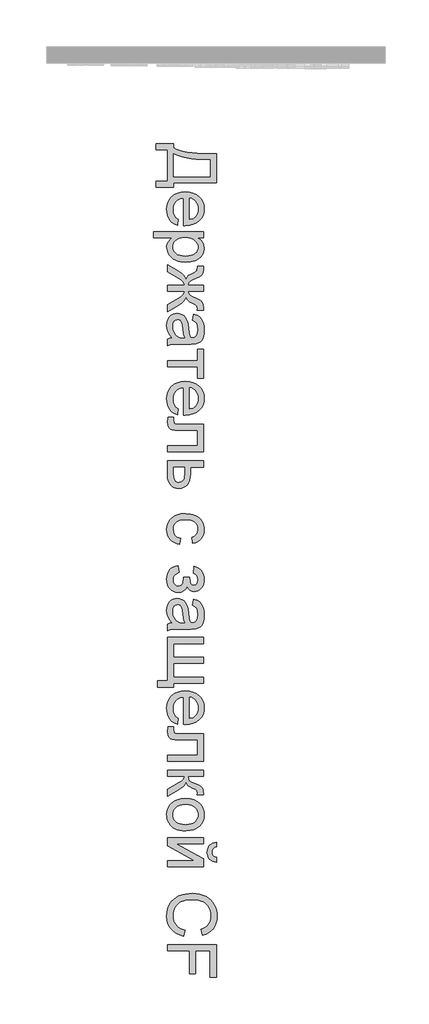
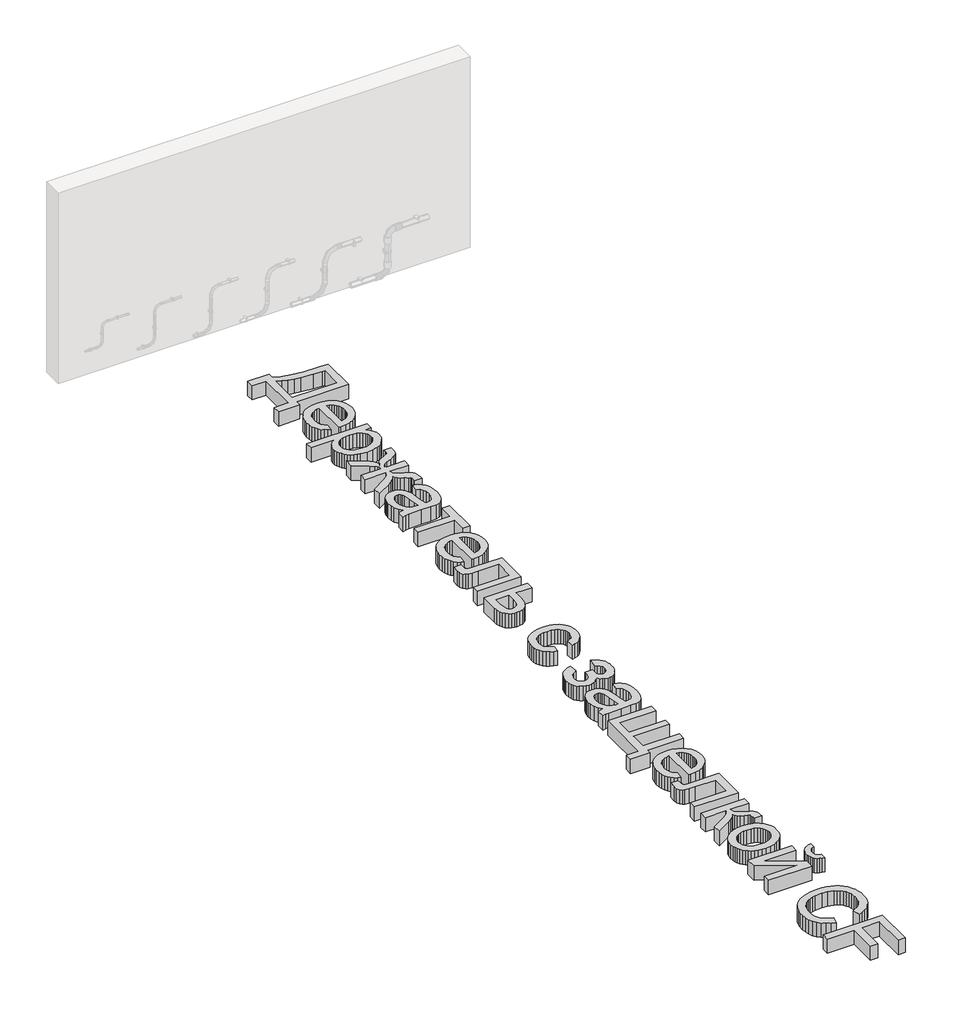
# One storey, part 22 of 33: 1 proxy.
"""IFC4 building model written with IfcOpenShell, lengths in millimetres."""

from ifc_helpers import new_model, si_unit, origin, origin_with_axes, place, context, project, spatial, polyline, outline, extrude, element, save

model = new_model("IFC4")

# Units and contexts
model_context = context("Model", 3, world=origin())
ifc_project = project(units=[si_unit("LENGTHUNIT", "METRE", prefix="MILLI")], contexts=[model_context])

# Site, building, storey
site = spatial("IfcSite", under=ifc_project)
building = spatial("IfcBuilding", under=site)
storey = spatial("IfcBuildingStorey", under=building, Name="Уровень 1", Elevation=0.0)

# Proxy
placement = place(None, origin())
element("IfcBuildingElementProxy", 1, Name="Надпись на модели 1", ObjectType="Надпись на модели 1", at=placement, inside=storey, context=model_context, shape_type="SweptSolid", body=[
    extrude(outline(polyline([(51483.0335832, 3308.7784672), (51483.0335832, 2958.0092365), (50966.1105063, 2958.0092365), (50966.1105063, 2902.6246211), (50753.802814, 2902.6246211), (50753.802814, 2976.4707749), (50892.2643525, 2976.4707749), (50892.2643525, 3354.9323134), (50753.802814, 3354.9323134), (50753.802814, 3428.7784672), (50966.1105063, 3428.7784672), (50966.1105063, 3382.6246211), (50996.1983969, 3365.3169288), (51033.0966842, 3350.3169288), (51076.8053681, 3337.6246211), (51127.3244486, 3327.2400057), (51248.7937996, 3313.3938519), (51397.5047371, 3308.7784672), (51483.0335832, 3308.7784672)]), holes=[polyline([(51409.1874294, 3031.8553903), (51409.1874294, 3234.9323134), (51379.4758909, 3234.9323134), (51291.8917563, 3238.6823134), (51177.1201217, 3249.9323134), (51115.7950015, 3259.235198), (51060.1850255, 3272.1438519), (51010.2901938, 3288.6582749), (50966.1105063, 3308.7784672), (50966.1105063, 3031.8553903), (51409.1874294, 3031.8553903)])]), origin_with_axes(), (0.0, 0.0, 1.0), 150.0),
    extrude(outline(polyline([(51021.4951217, 2515.797698), (51012.2643525, 2443.3938519), (50983.2649534, 2454.4951139), (50957.709064, 2469.4815922), (50935.5966842, 2488.353287), (50916.927814, 2511.110198), (50902.099088, 2537.5179504), (50891.5071409, 2567.3421692), (50885.1519726, 2600.5828543), (50883.0335832, 2637.2400057), (50886.6889318, 2683.0603182), (50897.6549775, 2723.8866403), (50915.9317202, 2759.7189721), (50941.5191601, 2790.5573134), (50973.7051577, 2815.3559913), (51011.7775736, 2833.0693326), (51055.7364077, 2843.6973374), (51105.5816601, 2847.2400057), (51157.1171169, 2843.6612797), (51202.5407948, 2832.9251019), (51241.8526938, 2815.0314721), (51275.052814, 2789.9803903), (51301.4290159, 2759.2231788), (51320.2691601, 2724.2111596), (51331.5732467, 2684.9443326), (51335.3412755, 2641.422698), (51331.5822611, 2599.3028062), (51320.3052178, 2561.2123615), (51301.5101457, 2527.1513639), (51275.1970448, 2497.1198134), (51242.06904, 2472.6050898), (51202.8292563, 2455.094573), (51157.4776938, 2444.5882629), (51106.0143525, 2441.0861596), (51086.1105063, 2441.5188519), (51086.1105063, 2773.3938519), (51056.6423573, 2769.1165081), (51030.834064, 2760.6113999), (51008.6856265, 2747.8785273), (50990.1970448, 2730.9178903), (50975.6207226, 2710.6669889), (50965.209064, 2688.063323), (50958.9620688, 2663.1068927), (50956.8797371, 2635.797698), (50960.7379101, 2596.4948134), (50972.3124294, 2563.3938519), (50992.3244486, 2536.4948134), (51021.4951217, 2515.797698)]), holes=[polyline([(51159.9566601, 2773.3938519), (51159.9566601, 2514.9323134), (51198.9710832, 2524.9202942), (51214.3136313, 2533.5110394), (51226.8797371, 2544.4996211), (51242.0239678, 2564.6378422), (51252.8412755, 2587.5525057), (51259.3316601, 2613.2436115), (51261.4951217, 2641.7111596), (51259.7688597, 2667.6772052), (51254.5900736, 2691.4888038), (51245.9587635, 2713.1459552), (51233.8749294, 2732.6486596), (51218.8974654, 2749.0143447), (51201.5852659, 2761.2604384), (51181.9383308, 2769.3869408), (51159.9566601, 2773.3938519)])]), origin_with_axes(), (0.0, 0.0, 1.0), 150.0),
    extrude(outline(polyline([(50726.1105063, 2367.2400057), (51326.1105063, 2367.2400057), (51326.1105063, 2293.3938519), (51253.7066601, 2293.3938519), (51289.4218044, 2269.3073134), (51314.9326217, 2242.3361596), (51330.2391121, 2210.8938519), (51335.3412755, 2173.3938519), (51333.5564198, 2147.6396451), (51328.2018525, 2123.453948), (51319.2775736, 2100.8367605), (51306.7835832, 2079.7880826), (51291.0444005, 2060.7676499), (51272.3845448, 2044.235198), (51250.8040159, 2030.1907269), (51226.302814, 2018.6342365), (51171.8917563, 2003.1654865), (51112.5047371, 1998.0092365), (51049.349689, 2003.8325538), (51020.2736674, 2011.1117004), (50992.865314, 2021.3025057), (50967.8412755, 2034.2652461), (50945.9181986, 2049.860198), (50927.0960832, 2068.0873615), (50911.3749294, 2088.9467365), (50898.9755904, 2111.415186), (50890.1189198, 2134.469573), (50884.8049174, 2158.1098975), (50883.0335832, 2182.3361596), (50887.7751698, 2216.2844769), (50901.9999294, 2246.5909672), (50923.4722851, 2272.5344769), (50949.9566601, 2293.3938519), (50726.1105063, 2293.3938519), (50726.1105063, 2367.2400057)]), holes=[polyline([(51105.7258909, 2293.3938519), (51070.1369486, 2291.3971572), (51039.5239678, 2285.407073), (51013.8869486, 2275.4235995), (50993.2258909, 2261.4467365), (50977.3244486, 2244.6213158), (50965.9662755, 2226.0921692), (50959.1513717, 2205.8592966), (50956.8797371, 2183.922698), (50959.2325015, 2161.6705947), (50966.2907948, 2141.0681307), (50978.0546169, 2122.1153062), (50994.5239678, 2104.8121211), (51015.9332226, 2090.3935514), (51042.5167563, 2080.094573), (51074.2745688, 2073.915186), (51111.2066601, 2071.8553903), (51146.4891121, 2073.8656067), (51177.0480063, 2079.8962557), (51202.8833428, 2089.9473374), (51223.9951217, 2104.0188519), (51240.4013717, 2120.8848374), (51252.1201217, 2139.3193326), (51259.1513717, 2159.3223374), (51261.4951217, 2180.8938519), (51259.0026337, 2202.3977581), (51251.5251698, 2222.6306307), (51239.0627299, 2241.5924697), (51221.615314, 2259.2832749), (51199.4172972, 2274.2066523), (51172.7030544, 2284.8662076), (51141.4725856, 2291.2619408), (51105.7258909, 2293.3938519)])]), origin_with_axes(), (0.0, 0.0, 1.0), 150.0),
    extrude(outline(polyline([(51326.1105063, 1647.2400057), (51141.4951217, 1647.2400057), (51145.2992082, 1621.188323), (51156.7114678, 1604.1871211), (51184.0612275, 1587.7628422), (51235.677814, 1563.4419288), (51284.896564, 1538.0212557), (51300.9873092, 1526.1492605), (51311.3989678, 1514.8361596), (51322.4326217, 1486.6751019), (51326.1105063, 1445.7496211), (51326.1105063, 1416.4707749), (51251.8316601, 1416.4707749), (51252.2643525, 1436.8073134), (51250.3532948, 1461.1823134), (51244.6201217, 1474.8842365), (51228.6105063, 1485.8097172), (51196.7355063, 1501.2784672), (51164.6441601, 1517.2339961), (51144.2355063, 1531.9275057), (51130.2811794, 1549.9022653), (51117.552814, 1575.7015442), (51107.1591842, 1551.407674), (51088.8148332, 1527.4202942), (51062.5197611, 1503.7394047), (51028.2739678, 1480.3650057), (50892.2643525, 1398.0092365), (50892.2643525, 1482.672698), (51026.3989678, 1563.7303903), (51061.6093044, 1585.8878422), (51082.1441601, 1605.0525057), (51092.0419967, 1624.4335153), (51095.3412755, 1647.2400057), (50892.2643525, 1647.2400057), (50892.2643525, 1721.0861596), (51095.3412755, 1721.0861596), (51092.1141121, 1743.7123615), (51082.4326217, 1763.1294288), (51062.0419967, 1782.438323), (51026.6874294, 1804.7400057), (50892.2643525, 1885.797698), (50892.2643525, 1970.3169288), (51028.2739678, 1888.2496211), (51062.5197611, 1864.6769047), (51088.8148332, 1840.8337557), (51107.1591842, 1816.720174), (51117.552814, 1792.3361596), (51131.6874294, 1820.5332749), (51146.9758909, 1838.7784672), (51173.8388717, 1855.3650057), (51222.6970448, 1878.5861596), (51238.959064, 1887.9972172), (51247.6489678, 1898.0573134), (51251.4350255, 1911.3626019), (51252.6970448, 1929.9323134), (51252.2643525, 1951.8553903), (51326.1105063, 1951.8553903), (51326.1105063, 1940.7496211), (51324.9566601, 1901.5549096), (51321.4951217, 1875.9900057), (51314.2835832, 1858.2135634), (51301.8797371, 1842.3842365), (51277.8292563, 1825.5452942), (51235.677814, 1804.7400057), (51184.6922371, 1780.6714961), (51157.2162755, 1764.4275057), (51145.4254101, 1747.4263038), (51141.4951217, 1721.0861596), (51326.1105063, 1721.0861596), (51326.1105063, 1647.2400057)])), origin_with_axes(), (0.0, 0.0, 1.0), 150.0),
    extrude(outline(polyline([(50947.6489678, 1084.1630826), (50917.396564, 1119.4455346), (50897.6008909, 1155.7736596), (50886.6754101, 1193.9767846), (50883.0335832, 1234.8842365), (50885.224088, 1267.7643447), (50891.7956025, 1296.5969769), (50902.7481265, 1321.3821331), (50918.0816601, 1342.1198134), (50936.8226457, 1358.4945129), (50957.9975255, 1370.1907269), (50981.6062996, 1377.2084552), (51007.6489678, 1379.547698), (51038.2619486, 1376.0140442), (51066.0624294, 1365.4130826), (51089.8605063, 1349.0609192), (51108.4662755, 1328.2736596), (51122.5287755, 1303.844573), (51132.6970448, 1276.5669288), (51143.802814, 1212.672698), (51155.4855063, 1137.1678903), (51169.1874294, 1084.5957749), (51185.6297371, 1084.1630826), (51218.5864678, 1089.2472172), (51230.7919967, 1095.6023855), (51240.1489678, 1104.4996211), (51249.4879101, 1119.8782269), (51256.1585832, 1138.610198), (51261.4951217, 1186.1342365), (51257.943439, 1230.1246211), (51247.2883909, 1260.8457749), (51227.5828621, 1281.7952942), (51196.8797371, 1296.4707749), (51206.1105063, 1370.3169288), (51246.4951217, 1357.4984192), (51278.2258909, 1338.3698134), (51302.4927178, 1311.1462557), (51320.4855063, 1274.0428903), (51331.6273332, 1228.6642846), (51335.3412755, 1176.6150057), (51332.0600255, 1126.6931307), (51322.2162755, 1087.1198134), (51307.4145928, 1057.282073), (51289.2595448, 1036.5669288), (51266.8136313, 1022.828948), (51239.1393525, 1013.922698), (51174.5239678, 1010.3169288), (51082.6489678, 1010.3169288), (50954.3556986, 1006.5669288), (50922.6429582, 1001.0140442), (50892.2643525, 991.8553903), (50892.2643525, 1065.7015442), (50917.9374294, 1077.5284672), (50947.6489678, 1084.1630826)]), holes=[polyline([(51095.3412755, 1084.1630826), (51083.0456025, 1133.7784672), (51072.6970448, 1203.297698), (51060.7258909, 1266.8313519), (51052.5407948, 1283.3638038), (51041.2547371, 1295.6053903), (51027.7331025, 1303.1775057), (51012.8412755, 1305.7015442), (50990.8821409, 1300.2027461), (50972.8893525, 1283.7063519), (50960.8821409, 1256.5729384), (50956.8797371, 1219.1630826), (50961.2968044, 1179.4996211), (50974.5480063, 1144.4515442), (50994.0732467, 1116.0380826), (51017.3124294, 1096.2784672), (51041.2547371, 1087.516448), (51074.427814, 1084.5957749), (51095.3412755, 1084.1630826)])]), origin_with_axes(), (0.0, 0.0, 1.0), 150.0),
    extrude(outline(polyline([(51326.1105063, 945.7015442), (51326.1105063, 594.9323134), (51252.2643525, 594.9323134), (51252.2643525, 733.3938519), (50892.2643525, 733.3938519), (50892.2643525, 807.2400057), (51252.2643525, 807.2400057), (51252.2643525, 945.7015442), (51326.1105063, 945.7015442)])), origin_with_axes(), (0.0, 0.0, 1.0), 150.0),
    extrude(outline(polyline([(51021.4951217, 226.5669288), (51012.2643525, 154.1630826), (50983.2649534, 165.2643447), (50957.709064, 180.250823), (50935.5966842, 199.1225177), (50916.927814, 221.8794288), (50902.099088, 248.2871812), (50891.5071409, 278.1113999), (50885.1519726, 311.352085), (50883.0335832, 348.0092365), (50886.6889318, 393.829549), (50897.6549775, 434.6558711), (50915.9317202, 470.4882028), (50941.5191601, 501.3265442), (50973.7051577, 526.1252221), (51011.7775736, 543.8385634), (51055.7364077, 554.4665682), (51105.5816601, 558.0092365), (51157.1171169, 554.4305105), (51202.5407948, 543.6943326), (51241.8526938, 525.8007028), (51275.052814, 500.7496211), (51301.4290159, 469.9924096), (51320.2691601, 434.9803903), (51331.5732467, 395.7135634), (51335.3412755, 352.1919288), (51331.5822611, 310.072037), (51320.3052178, 271.9815922), (51301.5101457, 237.9205947), (51275.1970448, 207.8890442), (51242.06904, 183.3743206), (51202.8292563, 165.8638038), (51157.4776938, 155.3574937), (51106.0143525, 151.8553903), (51086.1105063, 152.2880826), (51086.1105063, 484.1630826), (51056.6423573, 479.8857389), (51030.834064, 471.3806307), (51008.6856265, 458.6477581), (50990.1970448, 441.6871211), (50975.6207226, 421.4362197), (50965.209064, 398.8325538), (50958.9620688, 373.8761235), (50956.8797371, 346.5669288), (50960.7379101, 307.2640442), (50972.3124294, 274.1630826), (50992.3244486, 247.2640442), (51021.4951217, 226.5669288)]), holes=[polyline([(51159.9566601, 484.1630826), (51159.9566601, 225.7015442), (51198.9710832, 235.6895249), (51214.3136313, 244.2802701), (51226.8797371, 255.2688519), (51242.0239678, 275.407073), (51252.8412755, 298.3217365), (51259.3316601, 324.0128422), (51261.4951217, 352.4803903), (51259.7688597, 378.446436), (51254.5900736, 402.2580346), (51245.9587635, 423.915186), (51233.8749294, 443.4178903), (51218.8974654, 459.7835754), (51201.5852659, 472.0296692), (51181.9383308, 480.1561716), (51159.9566601, 484.1630826)])]), origin_with_axes(), (0.0, 0.0, 1.0), 150.0),
    extrude(outline(polyline([(51326.1105063, 41.0861596), (51326.1105063, -291.2215328), (50892.6970448, -291.2215328), (50892.6970448, -217.3753789), (51252.2643525, -217.3753789), (51252.2643525, -32.7599943), (51045.2931986, -32.7599943), (50985.2210832, -31.5160039), (50949.8124294, -27.7840328), (50928.1958428, -18.4631193), (50909.4999294, -0.452302), (50896.5732467, 26.8794288), (50892.2643525, 64.1630826), (50896.0143525, 124.1630826), (50966.1105063, 124.1630826), (50966.1105063, 91.1342365), (50970.6537755, 57.7448134), (50976.5311794, 49.3974576), (50985.0768525, 44.4034672), (51049.4758909, 41.0861596), (51326.1105063, 41.0861596)])), origin_with_axes(), (0.0, 0.0, 1.0), 150.0),
    extrude(outline(polyline([(51326.1105063, -401.9907635), (51326.1105063, -475.8369174), (51169.1874294, -475.8369174), (51169.1874294, -560.9330712), (51166.8752299, -600.217927), (51159.9386313, -634.7071097), (51148.3776337, -664.4006193), (51132.1922371, -689.2984558), (51111.9413356, -708.9859558), (51088.1838236, -723.0484558), (51060.919701, -731.4859558), (51030.1489678, -734.2984558), (51002.6955424, -731.9051265), (50977.3064198, -724.7251385), (50953.9816, -712.7584919), (50932.7210832, -696.0051866), (50915.0212635, -673.9874582), (50902.3785351, -646.2275424), (50894.7928981, -612.725439), (50892.2643525, -573.4811481), (50892.2643525, -401.9907635), (51326.1105063, -401.9907635)]), holes=[polyline([(50966.1105063, -475.8369174), (50966.1105063, -544.7792251), (50969.9867082, -598.2708116), (50974.8319606, -618.2963525), (50981.615314, -633.8417251), (50990.4539558, -645.4838525), (51001.4650736, -653.7996578), (51014.6486674, -658.7891409), (51030.0047371, -660.452302), (51054.1273332, -655.530427), (51075.4374294, -640.764802), (51084.1453621, -627.9327707), (51090.365314, -609.124177), (51095.3412755, -553.577302), (51095.3412755, -475.8369174), (50966.1105063, -475.8369174)])]), origin_with_axes(), (0.0, 0.0, 1.0), 150.0),
    extrude(outline(polyline([(51049.1874294, -1334.2984558), (51039.9566601, -1408.1446097), (51005.1114077, -1400.1127587), (50974.2775736, -1387.5556674), (50947.4551577, -1370.4733356), (50924.6441601, -1348.8657635), (50906.4395327, -1323.6434078), (50893.4362275, -1295.7167251), (50885.6342443, -1265.0857154), (50883.0335832, -1231.7503789), (50886.6618885, -1190.3336121), (50897.5468044, -1153.1986962), (50915.6883308, -1120.3456313), (50941.0864678, -1091.7744174), (50973.263451, -1068.647915), (51011.7415159, -1052.1289847), (51056.5206625, -1042.2176265), (51107.6008909, -1038.9138404), (51173.3160351, -1044.5568693), (51202.88785, -1051.6106553), (51230.2691601, -1061.4859558), (51254.9100856, -1074.2503789), (51276.2607467, -1089.9715328), (51294.3211433, -1108.6494174), (51309.0912755, -1130.2840328), (51320.5756505, -1153.897314), (51328.7787755, -1178.5111962), (51333.7006505, -1204.1256794), (51335.3412755, -1230.7407635), (51333.0876698, -1263.5036842), (51326.3268525, -1293.1386001), (51315.0588236, -1319.6455111), (51299.2835832, -1343.0244174), (51279.3617082, -1362.8786842), (51255.6537755, -1378.811677), (51228.1597851, -1390.8233957), (51196.8797371, -1398.9138404), (51187.6489678, -1325.0676866), (51219.8665159, -1311.6722539), (51242.9614678, -1290.8128789), (51256.8617082, -1263.6434078), (51261.4951217, -1231.3176866), (51259.2144726, -1206.22604), (51252.3725255, -1183.5953308), (51240.9692803, -1163.4255592), (51225.0047371, -1145.7167251), (51204.1093044, -1131.2981553), (51177.9133909, -1120.999177), (51146.4169967, -1114.81979), (51109.6201217, -1112.7599943), (51072.2688597, -1114.7747178), (51040.4073813, -1120.8188885), (51014.0356866, -1130.8925063), (50993.1537755, -1144.9955712), (50977.2838837, -1162.3528428), (50965.9482467, -1182.1890808), (50959.1468645, -1204.5042852), (50956.8797371, -1229.2984558), (50962.5407948, -1267.5376385), (50969.6171169, -1284.0745977), (50979.5239678, -1298.889802), (50992.3695207, -1311.568588), (51008.2619486, -1321.6962924), (51027.2012515, -1329.272915), (51049.1874294, -1334.2984558)])), origin_with_axes(), (0.0, 0.0, 1.0), 150.0),
    extrude(outline(polyline([(51086.1105063, -1805.0676866), (51159.9566601, -1805.0676866), (51162.8412755, -1863.3369174), (51167.9794967, -1878.4811481), (51178.2018525, -1892.7599943), (51192.6069005, -1903.1446097), (51210.2931986, -1906.6061481), (51231.2968044, -1901.9727347), (51247.5768525, -1888.0724943), (51258.0155544, -1866.8525424), (51261.4951217, -1840.2599943), (51258.0335832, -1813.3789847), (51247.6489678, -1790.8609558), (51230.3412755, -1772.7059078), (51206.1105063, -1758.9138404), (51215.3412755, -1675.8369174), (51243.4662755, -1685.4192491), (51267.8412755, -1697.8681674), (51288.4662755, -1713.1836722), (51305.3412755, -1731.3657635), (51318.4662755, -1752.4144414), (51327.8412755, -1776.3297058), (51333.4662755, -1803.1115568), (51335.3412755, -1832.7599943), (51333.0561193, -1865.5003789), (51326.2006505, -1894.4907635), (51314.7748693, -1919.7311481), (51298.7787755, -1941.2215328), (51279.6096049, -1958.3849943), (51258.6645928, -1970.6446097), (51235.9437395, -1978.0003789), (51211.4470448, -1980.452302), (51187.2162755, -1976.9637203), (51165.5816601, -1966.4979751), (51146.5431986, -1949.0550664), (51130.1008909, -1924.6349943), (51109.584064, -1953.1386001), (51084.0912755, -1973.4571097), (51053.5504101, -1985.6265808), (51017.8893525, -1989.6830712), (50989.3001097, -1987.1094534), (50963.5323813, -1979.3886001), (50940.5861674, -1966.5205111), (50920.4614678, -1948.5051866), (50904.0867683, -1925.865463), (50892.3905544, -1899.124177), (50885.372826, -1868.2813284), (50883.0335832, -1833.3369174), (50885.1970448, -1799.2759198), (50891.6874294, -1768.9919654), (50902.5047371, -1742.4850544), (50917.6489678, -1719.7551866), (50937.1201217, -1700.8023621), (50960.9181986, -1685.6265808), (50989.0431986, -1674.2278428), (51021.4951217, -1666.6061481), (51030.7258909, -1749.6830712), (50999.4999294, -1762.1229751), (50976.2066601, -1783.0003789), (50961.7114678, -1809.8994174), (50956.8797371, -1840.4042251), (50961.5131505, -1870.1157635), (50975.4133909, -1894.3465328), (50996.5251698, -1910.4643212), (51022.7931986, -1915.8369174), (51043.5984871, -1912.5015808), (51061.5912755, -1902.4955712), (51075.0768525, -1888.7215328), (51082.3605063, -1874.0821097), (51086.5431986, -1819.4907635), (51086.1105063, -1805.0676866)])), origin_with_axes(), (0.0, 0.0, 1.0), 150.0),
    extrude(outline(polyline([(50947.6489678, -2358.9138404), (50917.396564, -2323.6313885), (50897.6008909, -2287.3032635), (50886.6754101, -2249.1001385), (50883.0335832, -2208.1926866), (50885.224088, -2175.3125784), (50891.7956025, -2146.4799462), (50902.7481265, -2121.69479), (50918.0816601, -2100.9571097), (50936.8226457, -2084.5824102), (50957.9975255, -2072.8861962), (50981.6062996, -2065.8684678), (51007.6489678, -2063.5292251), (51038.2619486, -2067.0628789), (51066.0624294, -2077.6638404), (51089.8605063, -2094.0160039), (51108.4662755, -2114.8032635), (51122.5287755, -2139.2323501), (51132.6970448, -2166.5099943), (51143.802814, -2230.4042251), (51155.4855063, -2305.9090328), (51169.1874294, -2358.4811481), (51185.6297371, -2358.9138404), (51218.5864678, -2353.8297058), (51230.7919967, -2347.4745376), (51240.1489678, -2338.577302), (51249.4879101, -2323.1986962), (51256.1585832, -2304.4667251), (51261.4951217, -2256.9426866), (51257.943439, -2212.952302), (51247.2883909, -2182.2311481), (51227.5828621, -2161.2816289), (51196.8797371, -2146.6061481), (51206.1105063, -2072.7599943), (51246.4951217, -2085.5785039), (51278.2258909, -2104.7071097), (51302.4927178, -2131.9306674), (51320.4855063, -2169.0340328), (51331.6273332, -2214.4126385), (51335.3412755, -2266.4619174), (51332.0600255, -2316.3837924), (51322.2162755, -2355.9571097), (51307.4145928, -2385.7948501), (51289.2595448, -2406.5099943), (51266.8136313, -2420.2479751), (51239.1393525, -2429.1542251), (51174.5239678, -2432.7599943), (51082.6489678, -2432.7599943), (50954.3556986, -2436.5099943), (50922.6429582, -2442.0628789), (50892.2643525, -2451.2215328), (50892.2643525, -2377.3753789), (50917.9374294, -2365.5484558), (50947.6489678, -2358.9138404)]), holes=[polyline([(51095.3412755, -2358.9138404), (51083.0456025, -2309.2984558), (51072.6970448, -2239.7792251), (51060.7258909, -2176.2455712), (51052.5407948, -2159.7131193), (51041.2547371, -2147.4715328), (51027.7331025, -2139.8994174), (51012.8412755, -2137.3753789), (50990.8821409, -2142.874177), (50972.8893525, -2159.3705712), (50960.8821409, -2186.5039847), (50956.8797371, -2223.9138404), (50961.2968044, -2263.577302), (50974.5480063, -2298.6253789), (50994.0732467, -2327.0388404), (51017.3124294, -2346.7984558), (51041.2547371, -2355.5604751), (51074.427814, -2358.4811481), (51095.3412755, -2358.9138404)])]), origin_with_axes(), (0.0, 0.0, 1.0), 150.0),
    extrude(outline(polyline([(51326.1105063, -2534.2984558), (51326.1105063, -2608.1446097), (50966.1105063, -2608.1446097), (50966.1105063, -2774.2984558), (51326.1105063, -2774.2984558), (51326.1105063, -2848.1446097), (50966.1105063, -2848.1446097), (50966.1105063, -3014.2984558), (51326.1105063, -3014.2984558), (51326.1105063, -3088.1446097), (50966.1105063, -3088.1446097), (50966.1105063, -3134.2984558), (50772.2643525, -3134.2984558), (50772.2643525, -3060.452302), (50892.2643525, -3060.452302), (50892.2643525, -2534.2984558), (51326.1105063, -2534.2984558)])), origin_with_axes(), (0.0, 0.0, 1.0), 150.0),
    extrude(outline(polyline([(51021.4951217, -3511.8946097), (51012.2643525, -3584.2984558), (50983.2649534, -3573.1971938), (50957.709064, -3558.2107154), (50935.5966842, -3539.3390207), (50916.927814, -3516.5821097), (50902.099088, -3490.1743573), (50891.5071409, -3460.3501385), (50885.1519726, -3427.1094534), (50883.0335832, -3390.452302), (50886.6889318, -3344.6319895), (50897.6549775, -3303.8056674), (50915.9317202, -3267.9733356), (50941.5191601, -3237.1349943), (50973.7051577, -3212.3363164), (51011.7775736, -3194.6229751), (51055.7364077, -3183.9949703), (51105.5816601, -3180.452302), (51157.1171169, -3184.0310279), (51202.5407948, -3194.7672058), (51241.8526938, -3212.6608356), (51275.052814, -3237.7119174), (51301.4290159, -3268.4691289), (51320.2691601, -3303.4811481), (51331.5732467, -3342.7479751), (51335.3412755, -3386.2696097), (51331.5822611, -3428.3895015), (51320.3052178, -3466.4799462), (51301.5101457, -3500.5409438), (51275.1970448, -3530.5724943), (51242.06904, -3555.0872178), (51202.8292563, -3572.5977347), (51157.4776938, -3583.1040448), (51106.0143525, -3586.6061481), (51086.1105063, -3586.1734558), (51086.1105063, -3254.2984558), (51056.6423573, -3258.5757996), (51030.834064, -3267.0809078), (51008.6856265, -3279.8137803), (50990.1970448, -3296.7744174), (50975.6207226, -3317.0253188), (50965.209064, -3339.6289847), (50958.9620688, -3364.585415), (50956.8797371, -3391.8946097), (50960.7379101, -3431.1974943), (50972.3124294, -3464.2984558), (50992.3244486, -3491.1974943), (51021.4951217, -3511.8946097)]), holes=[polyline([(51159.9566601, -3254.2984558), (51159.9566601, -3512.7599943), (51198.9710832, -3502.7720135), (51214.3136313, -3494.1812683), (51226.8797371, -3483.1926866), (51242.0239678, -3463.0544654), (51252.8412755, -3440.139802), (51259.3316601, -3414.4486962), (51261.4951217, -3385.9811481), (51259.7688597, -3360.0151025), (51254.5900736, -3336.2035039), (51245.9587635, -3314.5463525), (51233.8749294, -3295.0436481), (51218.8974654, -3278.677963), (51201.5852659, -3266.4318693), (51181.9383308, -3258.3053669), (51159.9566601, -3254.2984558)])]), origin_with_axes(), (0.0, 0.0, 1.0), 150.0),
    extrude(outline(polyline([(51326.1105063, -3697.3753789), (51326.1105063, -4029.6830712), (50892.6970448, -4029.6830712), (50892.6970448, -3955.8369174), (51252.2643525, -3955.8369174), (51252.2643525, -3771.2215328), (51045.2931986, -3771.2215328), (50985.2210832, -3769.9775424), (50949.8124294, -3766.2455712), (50928.1958428, -3756.9246578), (50909.4999294, -3738.9138404), (50896.5732467, -3711.5821097), (50892.2643525, -3674.2984558), (50896.0143525, -3614.2984558), (50966.1105063, -3614.2984558), (50966.1105063, -3647.327302), (50970.6537755, -3680.7167251), (50976.5311794, -3689.0640808), (50985.0768525, -3694.0580712), (51049.4758909, -3697.3753789), (51326.1105063, -3697.3753789)])), origin_with_axes(), (0.0, 0.0, 1.0), 150.0),
    extrude(outline(polyline([(51326.1105063, -4140.452302), (51326.1105063, -4214.2984558), (51141.4951217, -4214.2984558), (51144.8124294, -4244.3345135), (51154.7643525, -4263.7696097), (51180.7258909, -4280.9691289), (51232.0720448, -4304.2984558), (51274.0612275, -4323.1025424), (51298.7787755, -4337.9763404), (51312.2463236, -4351.858552), (51320.4855063, -4367.6878789), (51324.7042563, -4389.592927), (51326.1105063, -4421.702302), (51326.1105063, -4435.8369174), (51251.8316601, -4435.8369174), (51252.2643525, -4415.9330712), (51250.3172371, -4392.8561481), (51244.4758909, -4379.8753789), (51228.2138717, -4369.3465328), (51195.8701217, -4354.4907635), (51163.4722851, -4338.8958116), (51143.2980063, -4324.7071097), (51129.8304582, -4307.5256193), (51117.552814, -4282.952302), (51107.1591842, -4306.3537443), (51088.8148332, -4329.5388404), (51062.5197611, -4352.5075904), (51028.2739678, -4375.2599943), (50892.2643525, -4454.2984558), (50892.2643525, -4370.3561481), (51025.3893525, -4292.9042251), (51060.8160351, -4271.9907635), (51081.7114678, -4253.9619174), (51091.9338236, -4235.7527828), (51095.3412755, -4214.2984558), (50892.2643525, -4214.2984558), (50892.2643525, -4140.452302), (51326.1105063, -4140.452302)])), origin_with_axes(), (0.0, 0.0, 1.0), 150.0),
    extrude(outline(polyline([(51109.1874294, -4481.9907635), (51165.3743284, -4485.9841529), (51213.7907948, -4497.9643212), (51254.4368284, -4517.9312683), (51287.3124294, -4545.8849943), (51308.3250496, -4574.0280231), (51323.334064, -4605.0917251), (51332.3394726, -4639.0761001), (51335.3412755, -4675.9811481), (51331.685927, -4716.7218332), (51320.7198813, -4753.5592731), (51302.4431385, -4786.4934678), (51276.8556986, -4815.5244174), (51244.8229462, -4839.2188284), (51207.2102659, -4856.1434078), (51164.0176577, -4866.2981553), (51115.2451217, -4869.6830712), (51075.7168765, -4868.186677), (51040.6417563, -4863.6974943), (51010.0197611, -4856.2155231), (50983.8508909, -4845.7407635), (50961.247225, -4832.4039246), (50941.3208428, -4816.3357154), (50924.0717443, -4797.5361361), (50909.4999294, -4776.0051866), (50897.9209029, -4752.5812082), (50889.6501698, -4728.1025424), (50884.6877299, -4702.569189), (50883.0335832, -4675.9811481), (50886.6754101, -4634.6455111), (50897.6008909, -4597.4655231), (50915.8100255, -4564.4411842), (50941.302814, -4535.5724943), (50973.646564, -4512.1304871), (51012.4085832, -4495.3861962), (51057.5888717, -4485.3396217), (51109.1874294, -4481.9907635)]), holes=[polyline([(51109.3316601, -4555.8369174), (51073.51285, -4557.9733356), (51042.4987275, -4564.3825904), (51016.2892924, -4575.0646818), (50994.8845448, -4590.0196097), (50978.2574414, -4608.2107154), (50966.380939, -4628.6013404), (50959.2550375, -4651.1914847), (50956.8797371, -4675.9811481), (50959.2685592, -4700.6446097), (50966.4350255, -4723.1446097), (50978.3791361, -4743.4811481), (50995.1008909, -4761.6542251), (51016.7174775, -4776.6091529), (51043.3460832, -4787.2912443), (51074.9867082, -4793.7004991), (51111.6393525, -4795.8369174), (51146.3223452, -4793.6869775), (51176.5251698, -4787.2371578), (51202.247826, -4776.4874582), (51223.490314, -4761.4378789), (51240.1174174, -4743.1971938), (51251.9939198, -4722.874177), (51259.1198212, -4700.4688284), (51261.4951217, -4675.9811481), (51259.1288356, -4651.1914847), (51252.0299775, -4628.6013404), (51240.1985472, -4608.2107154), (51223.6345448, -4590.0196097), (51202.2928981, -4575.0646818), (51176.1285351, -4564.3825904), (51145.1414558, -4557.9733356), (51109.3316601, -4555.8369174)])]), origin_with_axes(), (0.0, 0.0, 1.0), 150.0),
    extrude(outline(polyline([(51483.0335832, -5192.7599943), (51483.0335832, -5248.1446097), (51457.8337635, -5243.6869775), (51435.7439198, -5236.2275424), (51416.764052, -5225.7663044), (51400.8941601, -5212.3032635), (51388.3686193, -5196.1088525), (51379.4218044, -5177.4535039), (51374.0537154, -5156.3372178), (51372.2643525, -5132.7599943), (51374.0401938, -5107.1500183), (51379.3677178, -5084.2623981), (51388.2469246, -5064.0971337), (51400.677814, -5046.6542251), (51416.4800976, -5032.186076), (51435.4734871, -5020.9450904), (51457.6579823, -5012.9312683), (51483.0335832, -5008.1446097), (51483.0335832, -5063.5292251), (51458.7126698, -5071.3176866), (51441.4230063, -5084.2984558), (51431.0924775, -5102.5436481), (51427.6489678, -5126.1253789), (51430.9843044, -5152.7359558), (51440.990314, -5171.9907635), (51458.1718044, -5184.9715328), (51483.0335832, -5192.7599943)])), origin_with_axes(), (0.0, 0.0, 1.0), 150.0),
    extrude(outline(polyline([(51326.1105063, -4952.7599943), (51326.1105063, -5026.6061481), (50995.2451217, -5026.6061481), (51326.1105063, -5208.0484558), (51326.1105063, -5303.5292251), (50892.2643525, -5303.5292251), (50892.2643525, -5229.6830712), (51221.1105063, -5229.6830712), (50892.2643525, -5049.3946097), (50892.2643525, -4952.7599943), (51326.1105063, -4952.7599943)])), origin_with_axes(), (0.0, 0.0, 1.0), 150.0),
    extrude(outline(polyline([(51102.2643525, -6069.6830712), (51083.2258909, -6143.5292251), (51037.3019125, -6128.9168453), (50997.1742082, -6109.4547058), (50962.8427779, -6085.1428068), (50934.3076217, -6055.9811481), (50911.8752299, -6022.6277828), (50895.8520928, -5985.7407635), (50886.2382106, -5945.3200904), (50883.0335832, -5901.3657635), (50885.458463, -5856.334213), (50892.7331025, -5815.7107154), (50904.8575015, -5779.4952707), (50921.8316601, -5747.6878789), (50943.4031746, -5719.8513404), (50969.3196409, -5695.5484558), (50999.5810592, -5674.7792251), (51034.1874294, -5657.5436481), (51071.6423573, -5644.0084919), (51110.4494486, -5634.3405231), (51150.6087034, -5628.5397419), (51192.1201217, -5626.6061481), (51236.6603861, -5628.7921457), (51278.2619486, -5635.3501385), (51316.9248092, -5646.2801265), (51352.6489678, -5661.5821097), (51384.8439799, -5680.91354), (51412.9194005, -5703.9318693), (51436.8752299, -5730.6370977), (51456.7114678, -5761.0292251), (51472.2658549, -5794.0761001), (51483.3761313, -5828.7455712), (51490.0422972, -5865.0376385), (51492.2643525, -5902.952302), (51489.3887515, -5945.1893813), (51480.7619486, -5983.9198501), (51466.3839438, -6019.1437082), (51446.2547371, -6050.8609558), (51420.9061794, -6078.5487563), (51390.8701217, -6101.6842731), (51356.146564, -6120.2675063), (51316.7355063, -6134.2984558), (51299.1393525, -6060.452302), (51328.1793164, -6048.8236962), (51352.9915159, -6034.8513404), (51373.575951, -6018.5352347), (51389.9326217, -5999.8753789), (51402.3950616, -5978.7636001), (51411.2968044, -5955.0917251), (51416.63785, -5928.8597539), (51418.4181986, -5900.0676866), (51416.44404, -5866.9396818), (51410.521564, -5836.6422058), (51400.6507707, -5809.1752587), (51386.8316601, -5784.5388404), (51369.6862275, -5763.0439486), (51349.8364678, -5745.0015808), (51327.2823813, -5730.4117371), (51302.0239678, -5719.2744174), (51247.9734871, -5705.1578308), (51192.2643525, -5700.452302), (51124.0431986, -5706.0232154), (51093.3941601, -5712.9868573), (51065.052814, -5722.7359558), (51039.5825616, -5735.4282635), (51017.5468044, -5751.2215328), (50998.9455424, -5770.1157635), (50983.7787755, -5792.1109558), (50972.0104462, -5816.1389005), (50963.6044967, -5841.1313885), (50958.560927, -5867.0884198), (50956.8797371, -5894.0099943), (50959.1694005, -5926.1148621), (50966.0383909, -5955.6506193), (50977.4867082, -5982.6172659), (50993.5143525, -6007.014802), (51014.0492082, -6028.2663044), (51039.0191601, -6045.7948501), (51068.4242082, -6059.600439), (51102.2643525, -6069.6830712)])), origin_with_axes(), (0.0, 0.0, 1.0), 150.0),
    extrude(outline(polyline([(50892.2643525, -6245.0676866), (51483.0335832, -6245.0676866), (51483.0335832, -6641.9907635), (51409.1874294, -6641.9907635), (51409.1874294, -6318.9138404), (51233.802814, -6318.9138404), (51233.802814, -6595.8369174), (51159.9566601, -6595.8369174), (51159.9566601, -6318.9138404), (50892.2643525, -6318.9138404), (50892.2643525, -6245.0676866)])), origin_with_axes(), (0.0, 0.0, 1.0), 150.0),
])

save(model, "model.ifc")
